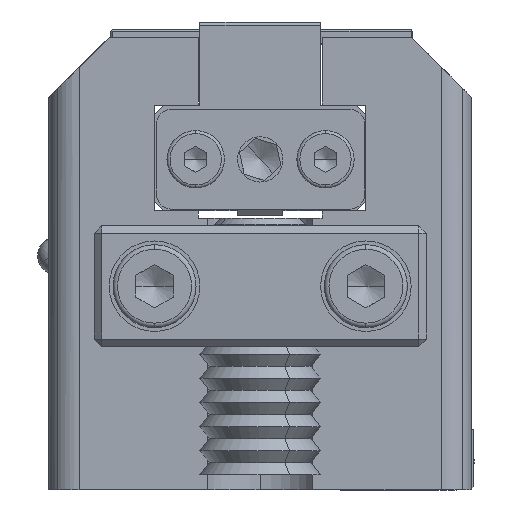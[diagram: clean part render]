
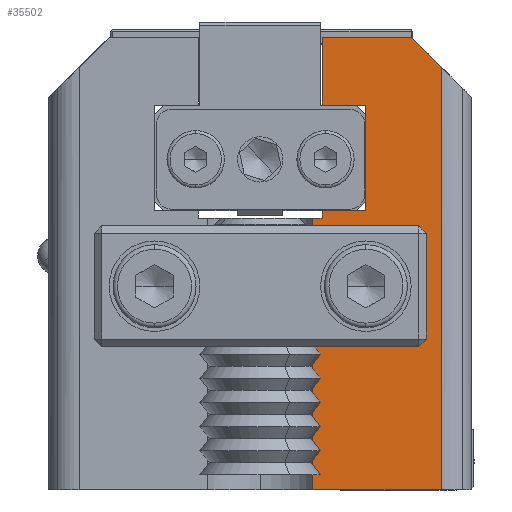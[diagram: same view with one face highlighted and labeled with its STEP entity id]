
A CAD part, left-side view. The second image highlights one B-rep face of the part: STEP entity #35502.
In plain terms, the highlighted planar face has unit normal (-1, 0, 0).
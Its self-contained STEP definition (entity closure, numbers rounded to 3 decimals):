
#193 = CARTESIAN_POINT ( 'NONE',  ( -25., -6.9, 18.5 ) ) ;
#397 = DIRECTION ( 'NONE',  ( 0., 0., 1. ) ) ;
#406 = CARTESIAN_POINT ( 'NONE',  ( -25., -4., 30. ) ) ;
#447 = PLANE ( 'NONE',  #34215 ) ;
#713 = CARTESIAN_POINT ( 'NONE',  ( -25., -6.9, 13.5 ) ) ;
#739 = ORIENTED_EDGE ( 'NONE', *, *, #12902, .T. ) ;
#790 = VECTOR ( 'NONE', #397, 1000. ) ;
#1566 = DIRECTION ( 'NONE',  ( 0., 1., 0. ) ) ;
#2075 = CARTESIAN_POINT ( 'NONE',  ( -25., -4., 25.5 ) ) ;
#2295 = VERTEX_POINT ( 'NONE', #13536 ) ;
#3406 = DIRECTION ( 'NONE',  ( 0., 1., 0. ) ) ;
#3831 = EDGE_CURVE ( 'NONE', #16316, #26097, #33537, .T. ) ;
#4097 = VERTEX_POINT ( 'NONE', #19750 ) ;
#4873 = VECTOR ( 'NONE', #48790, 1000. ) ;
#5801 = CARTESIAN_POINT ( 'NONE',  ( -25., -6.9, 25.5 ) ) ;
#6220 = VECTOR ( 'NONE', #3406, 1000. ) ;
#7320 = EDGE_LOOP ( 'NONE', ( #34787, #41379, #29314, #13926, #32974, #50503, #50620, #9388, #22552, #739, #29471 ) ) ;
#7592 = DIRECTION ( 'NONE',  ( 0., -1., 0. ) ) ;
#7629 = EDGE_CURVE ( 'NONE', #2295, #4097, #17814, .T. ) ;
#8112 = VERTEX_POINT ( 'NONE', #33620 ) ;
#8353 = LINE ( 'NONE', #406, #4873 ) ;
#8643 = CARTESIAN_POINT ( 'NONE',  ( -25., -12.866, 13.707 ) ) ;
#8757 = EDGE_CURVE ( 'NONE', #22241, #8112, #20490, .T. ) ;
#8896 = DIRECTION ( 'NONE',  ( 0., 1., 0. ) ) ;
#9388 = ORIENTED_EDGE ( 'NONE', *, *, #39944, .F. ) ;
#9752 = VECTOR ( 'NONE', #12792, 1000. ) ;
#11703 = EDGE_CURVE ( 'NONE', #22241, #2295, #49729, .T. ) ;
#12792 = DIRECTION ( 'NONE',  ( 0., 1., 0. ) ) ;
#12902 = EDGE_CURVE ( 'NONE', #49119, #4097, #13022, .T. ) ;
#12944 = CARTESIAN_POINT ( 'NONE',  ( -25., -11.9, 28. ) ) ;
#13022 = LINE ( 'NONE', #40827, #35817 ) ;
#13536 = CARTESIAN_POINT ( 'NONE',  ( -25., -11.9, 0. ) ) ;
#13926 = ORIENTED_EDGE ( 'NONE', *, *, #42975, .F. ) ;
#15495 = LINE ( 'NONE', #26605, #50726 ) ;
#15726 = EDGE_CURVE ( 'NONE', #50241, #8112, #8353, .T. ) ;
#15941 = LINE ( 'NONE', #43741, #17925 ) ;
#16316 = VERTEX_POINT ( 'NONE', #44451 ) ;
#16797 = CARTESIAN_POINT ( 'NONE',  ( -25., -4., 30. ) ) ;
#16818 = DIRECTION ( 'NONE',  ( 1., 0., 0. ) ) ;
#16919 = DIRECTION ( 'NONE',  ( 0., 0., -1. ) ) ;
#17338 = DIRECTION ( 'NONE',  ( 0., 0., 1. ) ) ;
#17410 = CARTESIAN_POINT ( 'NONE',  ( -25., -11.9, 28. ) ) ;
#17496 = AXIS2_PLACEMENT_3D ( 'NONE', #28783, #28533, #29310 ) ;
#17814 = LINE ( 'NONE', #41648, #9752 ) ;
#17925 = VECTOR ( 'NONE', #44245, 1000. ) ;
#19750 = CARTESIAN_POINT ( 'NONE',  ( -25., -3.364, 0. ) ) ;
#20052 = CARTESIAN_POINT ( 'NONE',  ( -25., -4., 18. ) ) ;
#20490 = LINE ( 'NONE', #32384, #50097 ) ;
#20742 = LINE ( 'NONE', #32895, #790 ) ;
#21243 = AXIS2_PLACEMENT_3D ( 'NONE', #713, #16818, #17338 ) ;
#21781 = CARTESIAN_POINT ( 'NONE',  ( -25., -4., 18.5 ) ) ;
#22241 = VERTEX_POINT ( 'NONE', #17410 ) ;
#22552 = ORIENTED_EDGE ( 'NONE', *, *, #30196, .T. ) ;
#23141 = ORIENTED_EDGE ( 'NONE', *, *, #41485, .T. ) ;
#25286 = EDGE_CURVE ( 'NONE', #30293, #49967, #46578, .T. ) ;
#25907 = VERTEX_POINT ( 'NONE', #21781 ) ;
#26097 = VERTEX_POINT ( 'NONE', #2075 ) ;
#26605 = CARTESIAN_POINT ( 'NONE',  ( -25., -4., 18.5 ) ) ;
#26722 = VECTOR ( 'NONE', #43698, 1000. ) ;
#27197 = LINE ( 'NONE', #39375, #6220 ) ;
#28247 = EDGE_LOOP ( 'NONE', ( #34495, #23141 ) ) ;
#28533 = DIRECTION ( 'NONE',  ( 1., 0., 0. ) ) ;
#28783 = CARTESIAN_POINT ( 'NONE',  ( -25., -6.9, 13.5 ) ) ;
#29310 = DIRECTION ( 'NONE',  ( 0., 0., 1. ) ) ;
#29314 = ORIENTED_EDGE ( 'NONE', *, *, #15726, .F. ) ;
#29407 = EDGE_CURVE ( 'NONE', #33425, #16316, #15941, .T. ) ;
#29471 = ORIENTED_EDGE ( 'NONE', *, *, #7629, .F. ) ;
#30196 = EDGE_CURVE ( 'NONE', #30582, #49119, #27197, .T. ) ;
#30293 = VERTEX_POINT ( 'NONE', #42216 ) ;
#30582 = VERTEX_POINT ( 'NONE', #20052 ) ;
#31515 = LINE ( 'NONE', #47653, #26722 ) ;
#31995 = VECTOR ( 'NONE', #16919, 1000. ) ;
#32088 = DIRECTION ( 'NONE',  ( 0., 0., -1. ) ) ;
#32384 = CARTESIAN_POINT ( 'NONE',  ( -25., -11.9, 28. ) ) ;
#32895 = CARTESIAN_POINT ( 'NONE',  ( -25., -4., 25.5 ) ) ;
#32974 = ORIENTED_EDGE ( 'NONE', *, *, #3831, .F. ) ;
#33425 = VERTEX_POINT ( 'NONE', #193 ) ;
#33537 = LINE ( 'NONE', #5801, #49813 ) ;
#33595 = CARTESIAN_POINT ( 'NONE',  ( -25., -3.364, 18. ) ) ;
#33620 = CARTESIAN_POINT ( 'NONE',  ( -25., -9.9, 30. ) ) ;
#34215 = AXIS2_PLACEMENT_3D ( 'NONE', #8643, #41425, #8896 ) ;
#34495 = ORIENTED_EDGE ( 'NONE', *, *, #25286, .T. ) ;
#34787 = ORIENTED_EDGE ( 'NONE', *, *, #11703, .F. ) ;
#35502 = ADVANCED_FACE ( 'NONE', ( #37164, #48564 ), #447, .F. ) ;
#35817 = VECTOR ( 'NONE', #32088, 1000. ) ;
#37164 = FACE_BOUND ( 'NONE', #28247, .T. ) ;
#39375 = CARTESIAN_POINT ( 'NONE',  ( -25., -4., 18. ) ) ;
#39944 = EDGE_CURVE ( 'NONE', #30582, #25907, #31515, .T. ) ;
#40827 = CARTESIAN_POINT ( 'NONE',  ( -25., -3.364, 18. ) ) ;
#41379 = ORIENTED_EDGE ( 'NONE', *, *, #8757, .T. ) ;
#41425 = DIRECTION ( 'NONE',  ( 1., 0., 0. ) ) ;
#41485 = EDGE_CURVE ( 'NONE', #49967, #30293, #45368, .T. ) ;
#41648 = CARTESIAN_POINT ( 'NONE',  ( -25., -11.9, 0. ) ) ;
#42216 = CARTESIAN_POINT ( 'NONE',  ( -25., -6.9, 14.729 ) ) ;
#42975 = EDGE_CURVE ( 'NONE', #26097, #50241, #20742, .T. ) ;
#43698 = DIRECTION ( 'NONE',  ( 0., 0., 1. ) ) ;
#43741 = CARTESIAN_POINT ( 'NONE',  ( -25., -6.9, 18.5 ) ) ;
#43812 = DIRECTION ( 'NONE',  ( 0., 0.707, 0.707 ) ) ;
#44025 = EDGE_CURVE ( 'NONE', #25907, #33425, #15495, .T. ) ;
#44245 = DIRECTION ( 'NONE',  ( 0., 0., 1. ) ) ;
#44451 = CARTESIAN_POINT ( 'NONE',  ( -25., -6.9, 25.5 ) ) ;
#45368 = CIRCLE ( 'NONE', #17496, 1.229 ) ;
#46290 = CARTESIAN_POINT ( 'NONE',  ( -25., -6.9, 12.27 ) ) ;
#46578 = CIRCLE ( 'NONE', #21243, 1.229 ) ;
#47653 = CARTESIAN_POINT ( 'NONE',  ( -25., -4., 18. ) ) ;
#48564 = FACE_OUTER_BOUND ( 'NONE', #7320, .T. ) ;
#48790 = DIRECTION ( 'NONE',  ( 0., -1., 0. ) ) ;
#49119 = VERTEX_POINT ( 'NONE', #33595 ) ;
#49729 = LINE ( 'NONE', #12944, #31995 ) ;
#49813 = VECTOR ( 'NONE', #1566, 1000. ) ;
#49967 = VERTEX_POINT ( 'NONE', #46290 ) ;
#50097 = VECTOR ( 'NONE', #43812, 1000. ) ;
#50241 = VERTEX_POINT ( 'NONE', #16797 ) ;
#50503 = ORIENTED_EDGE ( 'NONE', *, *, #29407, .F. ) ;
#50620 = ORIENTED_EDGE ( 'NONE', *, *, #44025, .F. ) ;
#50726 = VECTOR ( 'NONE', #7592, 1000. ) ;
